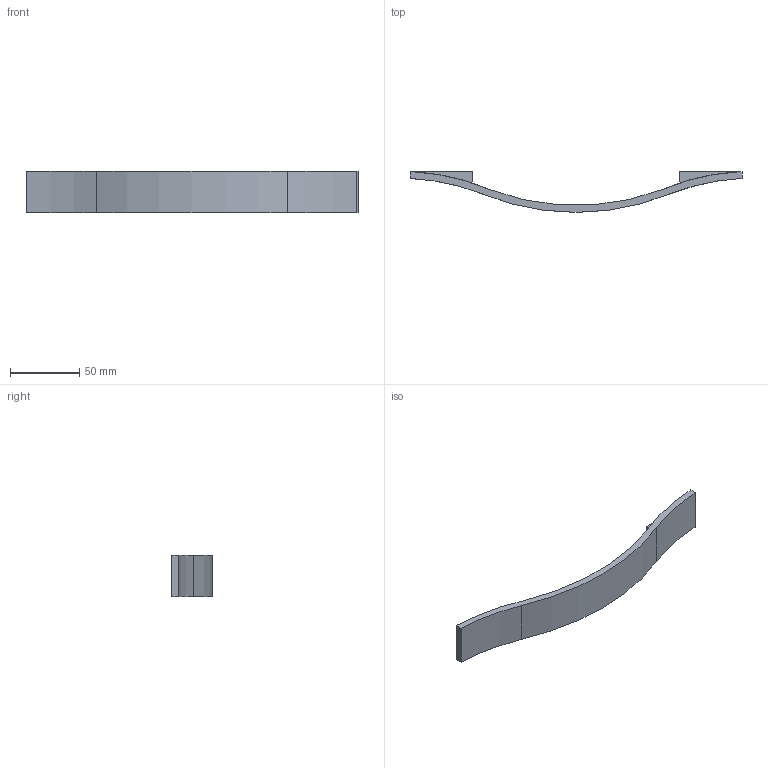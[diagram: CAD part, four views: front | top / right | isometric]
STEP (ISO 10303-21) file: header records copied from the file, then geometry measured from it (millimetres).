
FILE_DESCRIPTION( ( '' ), '1' );
FILE_NAME( 'C:/Documents and Settings/Sachin/Desktop/Sheet 10_1/stp/9113371.stp', '2013-10-22T11:48:02', ( '' ), ( '' ), ' ', ' ', ' ' );
FILE_SCHEMA( ( 'CONFIG_CONTROL_DESIGN' ) );
Length unit declared in the file: millimetre
Products named in the file (1): 1
Bounding box: 240 x 29.5 x 30 mm (x, y, z)
Volume: 39535.7 mm3; surface area: 18416.4 mm2
Topology: 1 solids, 1 shells, 25 faces, 63 edges, 42 vertices
Faces by surface type: plane 15, cylinder 10
Entity records: 805 total; most frequent: DIRECTION 139, CARTESIAN_POINT 131, ORIENTED_EDGE 126, EDGE_CURVE 63, AXIS2_PLACEMENT_3D 50, VERTEX_POINT 42, LINE 39, VECTOR 39
